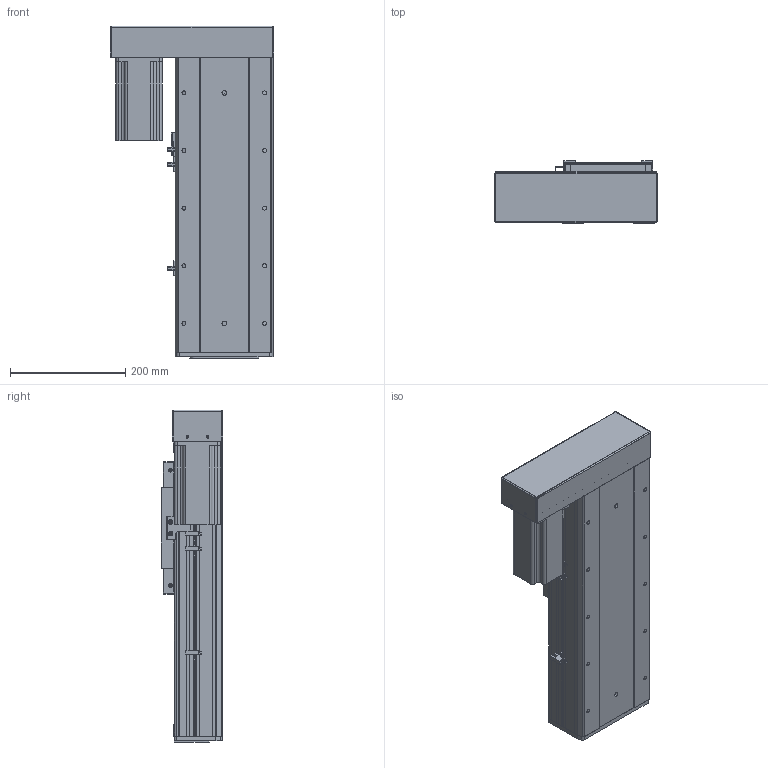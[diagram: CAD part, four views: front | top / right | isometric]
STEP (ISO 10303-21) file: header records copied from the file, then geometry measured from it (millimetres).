
FILE_DESCRIPTION (( 'STEP AP203' ), '1' );
FILE_NAME ('RY170F-L2020-300-LK.SLDASM_200.step', '2021-03-02T09:00:16', ( '盈信电脑' ), ( '东莞市道滘镇水果街19号' ), 'SwSTEP 2.0', 'SolidWorks 2012', '' );
FILE_SCHEMA (( 'CONFIG_CONTROL_DESIGN' ));
Length unit declared in the file: millimetre
Products named in the file (20): RY170F-L2020-300-LK.SLDASM_200; RY170F酘衵殏萇儂欶; RY170F-蛌殏萇儂假蚾啣; 怢湛750W萇儂ㄗ80遺ㄘ; 侐源滅袉蝶; RY170F-酘衵殏萇儂釱; 滅袉蝶18-24; RY170F-揤踡謫假蚾粣; RY170F-詩湍揤踡輸; RY170F俋离覜茼え; RY170F-綴裔啣; 覜茼ん672; RY100F-詩湍揤踡謫; RY170F-丝杆铝滑块连接板; RY170F-300眻蟀倰第奻裔啣-LK_200; RY170F-佪裝臏賑輸20蹟譫; 滅袉蝶18-10; RY170F-300眻蟀倰第菁釱-LK_200; RY170F-300眻蟀祥凄詩湍-LK_200; RY170F-滅鳥奻裔
Assembly tree (24 placements, depth 2):
  RY170F-L2020-300-LK.SLDASM_200
    RY170F-滅鳥奻裔
    RY170F-300眻蟀祥凄詩湍-LK_200
    RY170F-300眻蟀倰第菁釱-LK_200
    RY170F-佪裝臏賑輸20蹟譫
    RY170F-丝杆铝滑块连接板
    RY170F-300眻蟀倰第奻裔啣-LK_200  x2
    滅袉蝶18-10
    RY100F-詩湍揤踡謫
    RY170F-綴裔啣
    覜茼ん672  x3
    RY170F俋离覜茼え
    RY170F-揤踡謫假蚾粣
    RY170F-詩湍揤踡輸  x2
    滅袉蝶18-24
    侐源滅袉蝶  x2
    RY170F-酘衵殏萇儂釱
    RY170F-蛌殏萇儂假蚾啣
    怢湛750W萇儂ㄗ80遺ㄘ
    RY170F酘衵殏萇儂欶
Bounding box: 283 x 107 x 576 mm (x, y, z)
Volume: 4630722 mm3; surface area: 1383793.5 mm2
Topology: 24 solids, 24 shells, 1781 faces, 4948 edges, 3156 vertices
Faces by surface type: cylinder 833, plane 760, cone 180, bspline 8
Entity records: 51127 total; most frequent: CARTESIAN_POINT 10416, DIRECTION 8215, ORIENTED_EDGE 7892, EDGE_CURVE 3946, AXIS2_PLACEMENT_3D 2945, VERTEX_POINT 2576, LINE 2325, VECTOR 2325
